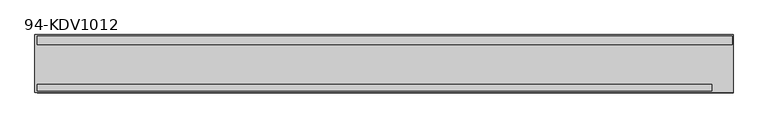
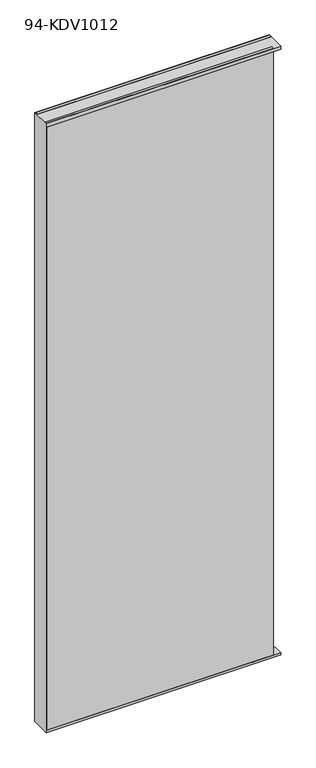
"""IFC4 building model written with IfcOpenShell, lengths in millimetres: plate geometry, PNX_VITRE_DV : 94-KDV1012."""

from ifc_helpers import new_model, si_unit, frame, origin, origin_with_axes, place, context, project, spatial, polyline, outline, extrude, source, transform, mapped, element, save


def plate_94_kdv1012_bcc0c58b(model_context):
    return source(origin(), model_context, "Body", "SweptSolid", [
        extrude(outline(polyline([(498.8, 39.5), (498.8, 27.5), (-496.8, 27.5), (-496.8, 39.5), (498.8, 39.5)])), origin_with_axes(), (0.0, 0.0, 1.0), 2739.0),
        extrude(outline(polyline([(469.5, -29.5), (469.5, -39.5), (-496.8, -39.5), (-496.8, -29.5), (469.5, -29.5)])), origin_with_axes(), (0.0, 0.0, 1.0), 2739.0),
        extrude(outline(polyline([(2739.0, -499.8), (0.0, -499.8), (0.0, 499.8), (9.0, 499.8), (9.0, -496.8), (2724.0, -496.8), (2724.0, 499.8), (2739.0, 499.8), (2739.0, -499.8)])), frame((0.0, -41.5, 0.0), z_axis=(0.0, 1.0, 0.0), x_axis=(0.0, 0.0, 1.0)), (0.0, 0.0, 1.0), 83.0),
    ])


if __name__ == "__main__":
    model = new_model("IFC4")
    model_context = context("Model", 3, world=origin())
    ifc_project = project(units=[si_unit("LENGTHUNIT", "METRE", prefix="MILLI")], contexts=[model_context])
    site = spatial("IfcSite", under=ifc_project)
    building = spatial("IfcBuilding", under=site)
    placement = place(None, origin())
    plate_94_kdv1012_shape = plate_94_kdv1012_bcc0c58b(model_context)
    element("IfcPlate", 1, ObjectType="PNX_VITRE_DV : 94-KDV1012", at=placement, inside=building, context=model_context, shape_type="MappedRepresentation", body=[
        mapped(plate_94_kdv1012_shape, transform((0.0, 0.0, 0.0), x_axis=(1.0, 0.0, 0.0), y_axis=(0.0, 1.0, 0.0), z_axis=(0.0, 0.0, 1.0))),
    ])
    save(model, "model.ifc")
